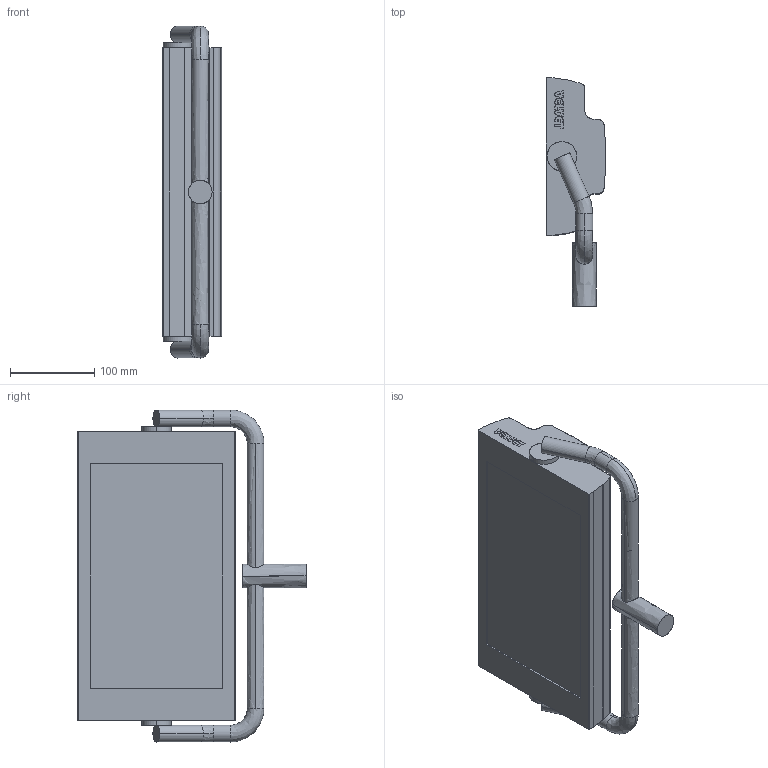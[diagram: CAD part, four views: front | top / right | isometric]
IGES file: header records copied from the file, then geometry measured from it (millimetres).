
Start section: SolidWorks IGES file using analytic representation for surfaces
Global section: file name: C:\Users\Eddy\Desktop\MINI 1 IP54.IGS; native system: SolidWorks 2023; preprocessor: SolidWorks 2023; author: Eddy; date: 240715.150235; units: millimetre
Bounding box: 70.41 x 271.29 x 395 mm (x, y, z)
Surface area: 231858.9 mm2 (no closed solid volume)
Topology: 0 solids, 0 shells, 292 faces, 3782 edges, 3782 vertices
Faces by surface type: bspline 262, revolution 30
